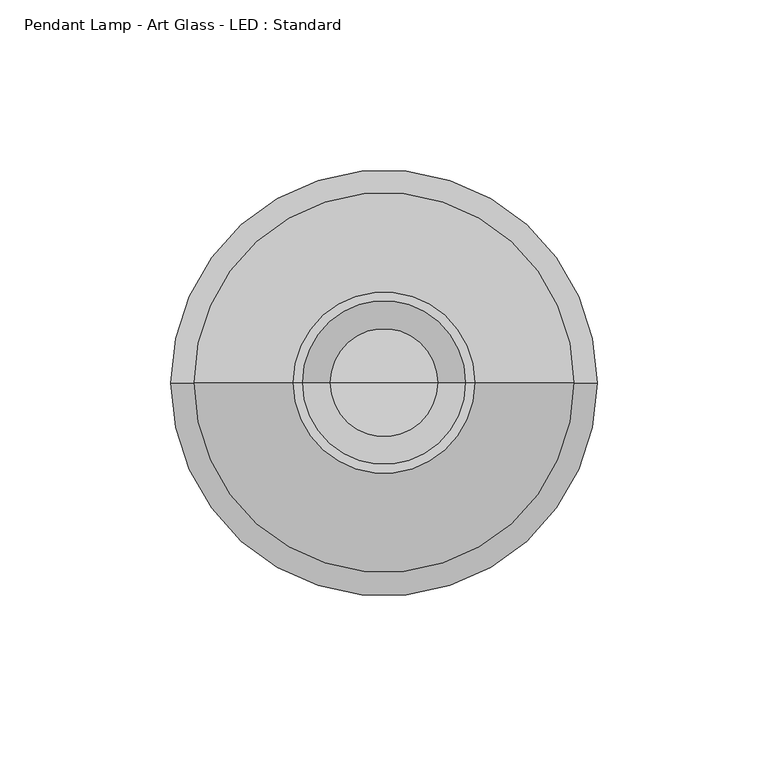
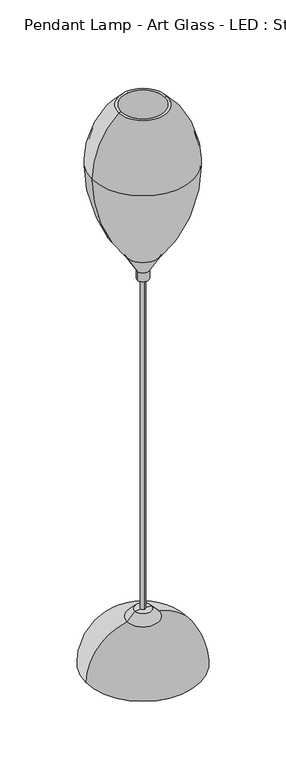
"""IFC4 building model written with IfcOpenShell, lengths in millimetres: light fixture geometry, Pendant Lamp - Art Glass - LED : Standard."""

from ifc_helpers import new_model, si_unit, point, frame, frame_2d, origin, place, context, project, spatial, polyline, circle_curve, ellipse_curve, trimmed, segment, composite_curve, outline, extrude, source, transform, mapped, element, save
from ifc_brep_helpers import plane_surface, cylinder_surface, revolved_surface, advanced_brep


def pendant_lamp_art_glass_led_standard_edcf6bd5(model_context):
    return source(origin(), model_context, "Body", "SolidModel", [
        advanced_brep(
        [(-19.1897668, 0.0, 474.98), (17.3638849, 0.0, 474.98), (14.9258339, 0.0, 474.98), (-16.7517158, 0.0, 474.98), (-56.475441, 0.0, 577.9409929), (54.649559, 0.0, 577.9409929), (-24.8838567, 0.0, 644.525), (23.0579748, 0.0, 644.525), (25.6239323, 0.0, 644.525), (-27.4498143, 0.0, 644.525), (53.3149972, 0.0, 577.9409929), (-55.1408791, 0.0, 577.9409929)],
        [
            (0, 1, circle_curve(frame((-0.912941, 0.0, 474.98), z_axis=(0.0, 0.0, -1.0), x_axis=(1.0, 0.0, 0.0)), 18.2768259)),
            (1, 2),
            (2, 3, circle_curve(frame((-0.912941, 0.0, 474.98), z_axis=(0.0, 0.0, 1.0), x_axis=(1.0, 0.0, 0.0)), 15.8387748)),
            (3, 0),
            (1, 0, circle_curve(frame((-0.912941, 0.0, 474.98), z_axis=(0.0, 0.0, -1.0), x_axis=(1.0, 0.0, 0.0)), 18.2768259)),
            (3, 2, circle_curve(frame((-0.912941, 0.0, 474.98), z_axis=(0.0, 0.0, 1.0), x_axis=(1.0, 0.0, 0.0)), 15.8387748)),
            (4, 5, circle_curve(frame((-0.912941, 0.0, 577.9409929), z_axis=(0.0, 0.0, -1.0), x_axis=(1.0, 0.0, 0.0)), 55.5625)),
            (5, 1, circle_curve(frame((-106.1519799, 0.0, 577.9409929), z_axis=(0.0, 1.0, 0.0), x_axis=(1.0, 0.0, 0.0)), 160.8015389)),
            (0, 4, circle_curve(frame((104.326098, 0.0, 577.9409929), z_axis=(0.0, 1.0, 0.0), x_axis=(-1.0, 0.0, 0.0)), 160.8015389)),
            (5, 4, circle_curve(frame((-0.912941, 0.0, 577.9409929), z_axis=(0.0, 0.0, -1.0), x_axis=(1.0, 0.0, 0.0)), 55.5625)),
            (6, 7, circle_curve(frame((-0.912941, 0.0, 644.525), z_axis=(0.0, 0.0, -1.0), x_axis=(1.0, 0.0, 0.0)), 23.9709158)),
            (7, 8),
            (8, 9, circle_curve(frame((-0.912941, 0.0, 644.525), z_axis=(0.0, 0.0, 1.0), x_axis=(1.0, 0.0, 0.0)), 26.5368733)),
            (9, 6),
            (7, 6, circle_curve(frame((-0.912941, 0.0, 644.525), z_axis=(0.0, 0.0, -1.0), x_axis=(1.0, 0.0, 0.0)), 23.9709158)),
            (9, 8, circle_curve(frame((-0.912941, 0.0, 644.525), z_axis=(0.0, 0.0, 1.0), x_axis=(1.0, 0.0, 0.0)), 26.5368733)),
            (2, 10, circle_curve(frame((-103.9519616, 0.0, 577.9409929), z_axis=(0.0, -1.0, 0.0), x_axis=(1.0, 0.0, 0.0)), 157.2669588)),
            (10, 11, circle_curve(frame((-0.912941, 0.0, 577.9409929), z_axis=(0.0, 0.0, 1.0), x_axis=(1.0, 0.0, 0.0)), 54.2279381)),
            (11, 3, circle_curve(frame((102.1260797, 0.0, 577.9409929), z_axis=(0.0, -1.0, 0.0), x_axis=(-1.0, 0.0, 0.0)), 157.2669588)),
            (11, 10, circle_curve(frame((-0.912941, 0.0, 577.9409929), z_axis=(0.0, 0.0, 1.0), x_axis=(1.0, 0.0, 0.0)), 54.2279381)),
            (8, 5, circle_curve(frame((-36.2342151, 0.0, 577.9409929), z_axis=(0.0, 1.0, 0.0), x_axis=(1.0, 0.0, 0.0)), 90.8837741)),
            (4, 9, circle_curve(frame((34.4083332, 0.0, 577.9409929), z_axis=(0.0, 1.0, 0.0), x_axis=(-1.0, 0.0, 0.0)), 90.8837741)),
            (10, 7, circle_curve(frame((-35.0763411, 0.0, 577.9409929), z_axis=(0.0, -1.0, 0.0), x_axis=(1.0, 0.0, 0.0)), 88.3913382)),
            (6, 11, circle_curve(frame((33.2504591, 0.0, 577.9409929), z_axis=(0.0, -1.0, 0.0), x_axis=(-1.0, 0.0, 0.0)), 88.3913382)),
        ],
        [
            plane_surface(frame((-0.912941, 0.0, 474.98), z_axis=(0.0, 0.0, -1.0), x_axis=(1.0, 0.0, 0.0))),
            revolved_surface(trimmed(ellipse_curve(frame((-106.1519799, 0.0, 577.9409929), z_axis=(0.0, -1.0, 0.0), x_axis=(1.0, 0.0, 0.0)), 160.8015389, 160.8015389), [point((17.3638849, 0.0, 474.98))], [point((54.649559, 0.0, 577.9409929))], True, "CARTESIAN"), (-0.912941, 0.0, 6220.7073186), (0.0, 0.0, 1.0)),
            plane_surface(frame((-0.912941, 0.0, 644.525), z_axis=(0.0, 0.0, 1.0), x_axis=(1.0, 0.0, 0.0))),
            revolved_surface(trimmed(ellipse_curve(frame((-103.9519616, 0.0, 577.9409929), z_axis=(0.0, 1.0, 0.0), x_axis=(1.0, 0.0, 0.0)), 157.2669588, 157.2669588), [point((53.3149972, 0.0, 577.9409929))], [point((14.9258339, 0.0, 474.98))], True, "CARTESIAN"), (-0.912941, 0.0, 6220.7073186), (0.0, 0.0, 1.0)),
            revolved_surface(trimmed(ellipse_curve(frame((-36.2342151, 0.0, 577.9409929), z_axis=(0.0, -1.0, 0.0), x_axis=(1.0, 0.0, 0.0)), 90.8837741, 90.8837741), [point((54.649559, 0.0, 577.9409929))], [point((25.6239323, 0.0, 644.525))], True, "CARTESIAN"), (-0.912941, 0.0, 6220.7073186), (0.0, 0.0, 1.0)),
            revolved_surface(trimmed(ellipse_curve(frame((-35.0763411, 0.0, 577.9409929), z_axis=(0.0, 1.0, 0.0), x_axis=(1.0, 0.0, 0.0)), 88.3913382, 88.3913382), [point((23.0579748, 0.0, 644.525))], [point((53.3149972, 0.0, 577.9409929))], True, "CARTESIAN"), (-0.912941, 0.0, 6220.7073186), (0.0, 0.0, 1.0)),
        ],
        [
            (0, [[1, 2, 3, 4]]),
            (0, [[5, -4, 6, -2]]),
            (1, [[7, 8, -1, 9]]),
            (1, [[10, -9, -5, -8]]),
            (2, [[11, 12, 13, 14]]),
            (2, [[15, -14, 16, -12]]),
            (3, [[-3, 17, 18, 19]]),
            (3, [[-6, -19, 20, -17]]),
            (4, [[-13, 21, -7, 22]]),
            (4, [[-16, -22, -10, -21]]),
            (5, [[-18, 23, -11, 24]]),
            (5, [[-20, -24, -15, -23]]),
        ],
    ),
        advanced_brep(
        [(-7.262941, 0.0, 454.3221316), (5.437059, 0.0, 454.3221316), (5.437059, 0.0, 444.5), (-7.262941, 0.0, 444.5), (-19.1897668, 0.0, 474.98), (17.3638849, 0.0, 474.98), (-0.912941, 0.0, 474.98), (-0.912941, 0.0, 444.5)],
        [
            (0, 1, circle_curve(frame((-0.912941, 0.0, 454.3221316), z_axis=(0.0, 0.0, -1.0), x_axis=(1.0, 0.0, 0.0)), 6.35)),
            (1, 2),
            (2, 3, circle_curve(frame((-0.912941, 0.0, 444.5), z_axis=(0.0, 0.0, 1.0), x_axis=(1.0, 0.0, 0.0)), 6.35)),
            (3, 0),
            (1, 0, circle_curve(frame((-0.912941, 0.0, 454.3221316), z_axis=(0.0, 0.0, -1.0), x_axis=(1.0, 0.0, 0.0)), 6.35)),
            (3, 2, circle_curve(frame((-0.912941, 0.0, 444.5), z_axis=(0.0, 0.0, 1.0), x_axis=(1.0, 0.0, 0.0)), 6.35)),
            (4, 5, circle_curve(frame((-0.912941, 0.0, 474.98), z_axis=(0.0, 0.0, -1.0), x_axis=(1.0, 0.0, 0.0)), 18.2768259)),
            (5, 1),
            (0, 4),
            (5, 4, circle_curve(frame((-0.912941, 0.0, 474.98), z_axis=(0.0, 0.0, -1.0), x_axis=(1.0, 0.0, 0.0)), 18.2768259)),
            (6, 5),
            (4, 6),
            (2, 7),
            (7, 3),
        ],
        [
            cylinder_surface(frame((-0.912941, 0.0, 6220.7073186), z_axis=(0.0, 0.0, 1.0), x_axis=(1.0, 0.0, 0.0)), 6.35),
            revolved_surface(polyline([(5.437059, 0.0, 454.3221316), (17.3638849, 0.0, 474.98)]), (-0.912941, 0.0, 6220.7073186), (0.0, 0.0, 1.0)),
            plane_surface(frame((-0.912941, 0.0, 474.98), z_axis=(0.0, 0.0, 1.0), x_axis=(1.0, 0.0, 0.0))),
            plane_surface(frame((-0.912941, 0.0, 444.5), z_axis=(0.0, 0.0, -1.0), x_axis=(1.0, 0.0, 0.0))),
        ],
        [
            (0, [[1, 2, 3, 4]]),
            (0, [[5, -4, 6, -2]]),
            (1, [[7, 8, -1, 9]]),
            (1, [[10, -9, -5, -8]]),
            (2, [[11, -7, 12]]),
            (2, [[-12, -10, -11]]),
            (3, [[-3, 13, 14]]),
            (3, [[-6, -14, -13]]),
        ],
    ),
        advanced_brep(
        [(-18.6253579, 0.0, 54.4766065), (16.799476, 0.0, 54.4766065), (61.4307936, 0.0, 0.0), (-63.2566756, 0.0, 0.0), (-0.912941, 0.0, 0.0), (-10.0214773, 0.0, 63.5), (8.1955954, 0.0, 63.5), (-0.912941, 0.0, 63.5)],
        [
            (0, 1, circle_curve(frame((-0.912941, 0.0, 54.4766065), z_axis=(0.0, 0.0, -1.0), x_axis=(1.0, 0.0, 0.0)), 17.712417)),
            (1, 2, circle_curve(frame((5.8682936, 0.0, 0.0), z_axis=(0.0, 1.0, 0.0), x_axis=(1.0, 0.0, 0.0)), 55.5625)),
            (2, 3, circle_curve(frame((-0.912941, 0.0, 0.0), z_axis=(0.0, 0.0, 1.0), x_axis=(1.0, 0.0, 0.0)), 62.3437346)),
            (3, 0, circle_curve(frame((-7.6941756, 0.0, 0.0), z_axis=(0.0, 1.0, 0.0), x_axis=(-1.0, 0.0, 0.0)), 55.5625)),
            (1, 0, circle_curve(frame((-0.912941, 0.0, 54.4766065), z_axis=(0.0, 0.0, -1.0), x_axis=(1.0, 0.0, 0.0)), 17.712417)),
            (3, 2, circle_curve(frame((-0.912941, 0.0, 0.0), z_axis=(0.0, 0.0, 1.0), x_axis=(1.0, 0.0, 0.0)), 62.3437346)),
            (2, 4),
            (4, 3),
            (5, 6, circle_curve(frame((-0.912941, 0.0, 63.5), z_axis=(0.0, 0.0, -1.0), x_axis=(1.0, 0.0, 0.0)), 9.1085364)),
            (6, 1),
            (0, 5),
            (6, 5, circle_curve(frame((-0.912941, 0.0, 63.5), z_axis=(0.0, 0.0, -1.0), x_axis=(1.0, 0.0, 0.0)), 9.1085364)),
            (7, 6),
            (5, 7),
        ],
        [
            revolved_surface(trimmed(ellipse_curve(frame((5.8682936, 0.0, 0.0), z_axis=(0.0, -1.0, 0.0), x_axis=(1.0, 0.0, 0.0)), 55.5625, 55.5625), [point((61.4307936, 0.0, 0.0))], [point((16.799476, 0.0, 54.4766065))], True, "CARTESIAN"), (-0.912941, 0.0, 868.9471624), (0.0, 0.0, 1.0)),
            plane_surface(frame((-0.912941, 0.0, 0.0), z_axis=(0.0, 0.0, -1.0), x_axis=(1.0, 0.0, 0.0))),
            revolved_surface(polyline([(16.799476, 0.0, 54.4766065), (8.1955954, 0.0, 63.5)]), (-0.912941, 0.0, 868.9471624), (0.0, 0.0, 1.0)),
            plane_surface(frame((-0.912941, 0.0, 63.5), z_axis=(0.0, 0.0, 1.0), x_axis=(1.0, 0.0, 0.0))),
        ],
        [
            (0, [[1, 2, 3, 4]]),
            (0, [[5, -4, 6, -2]]),
            (1, [[-3, 7, 8]]),
            (1, [[-6, -8, -7]]),
            (2, [[9, 10, -1, 11]]),
            (2, [[12, -11, -5, -10]]),
            (3, [[13, -9, 14]]),
            (3, [[-14, -12, -13]]),
        ],
    ),
        extrude(outline(composite_curve([segment(trimmed(circle_curve(frame_2d((-0.912941, 0.0)), 2.54), [point((-0.912941, 2.54))], [point((-0.912941, -2.54))], False, "CARTESIAN"), True, "CONTINUOUS"), segment(trimmed(circle_curve(frame_2d((-0.912941, 0.0)), 2.54), [point((-0.912941, -2.54))], [point((-0.912941, 2.54))], False, "CARTESIAN"), True, "CONTINUOUS")], self_intersect=False)), frame((0.0, 0.0, 63.5), z_axis=(0.0, 0.0, 1.0), x_axis=(1.0, 0.0, 0.0)), (0.0, 0.0, 1.0), 381.0),
    ])


if __name__ == "__main__":
    model = new_model("IFC4")
    model_context = context("Model", 3, world=origin())
    ifc_project = project(units=[si_unit("LENGTHUNIT", "METRE", prefix="MILLI")], contexts=[model_context])
    site = spatial("IfcSite", under=ifc_project)
    building = spatial("IfcBuilding", under=site)
    placement = place(None, origin())
    pendant_lamp_art_glass_led_standard_shape = pendant_lamp_art_glass_led_standard_edcf6bd5(model_context)
    element("IfcLightFixture", 1, ObjectType="Pendant Lamp - Art Glass - LED : Standard", at=placement, inside=building, context=model_context, shape_type="MappedRepresentation", body=[
        mapped(pendant_lamp_art_glass_led_standard_shape, transform((0.0, 0.0, 0.0), x_axis=(1.0, 0.0, 0.0), y_axis=(0.0, 1.0, 0.0), z_axis=(0.0, 0.0, 1.0))),
    ])
    save(model, "model.ifc")
